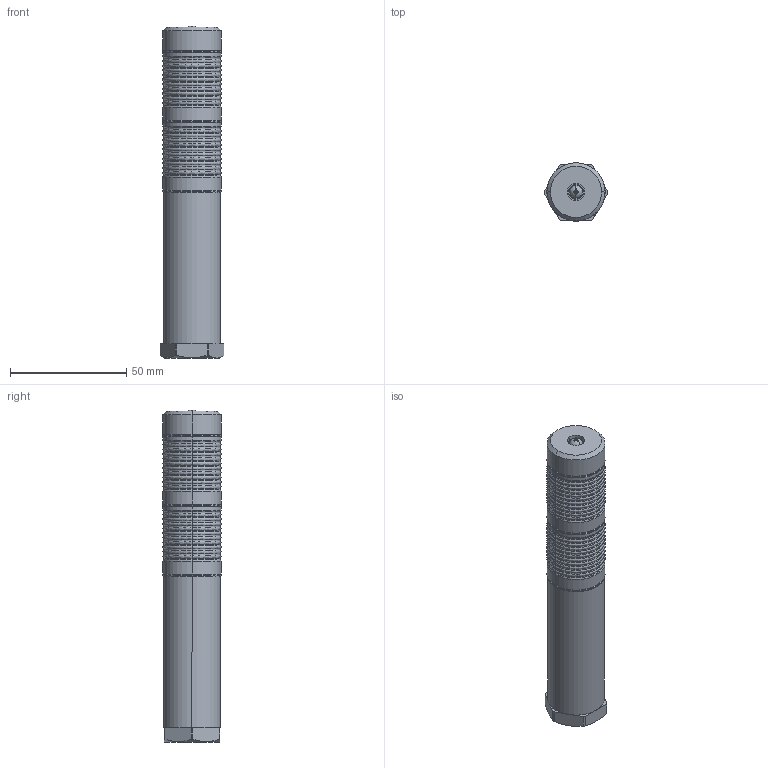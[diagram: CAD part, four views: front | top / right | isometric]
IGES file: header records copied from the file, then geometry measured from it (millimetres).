
Start section: IGES file generated by C3D Converter 1.6 translator by C3D Labs., translator version IGESOUT-5.1.
Global section: file name: HC:\Users\沓膼\OneDrive\Desktop\欙鵳醆TL25-024-RYG\TL25-024-RG.igs; preprocessor: 1.0; author: 沓膼,7; organization: Hunknown; date: -17760624:194605; units: millimetre
Bounding box: 27.3 x 25 x 142.72 mm (x, y, z)
Volume: 46068.4 mm3; surface area: 23104.1 mm2
Topology: 10 solids, 10 shells, 191 faces, 408 edges, 234 vertices
Faces by surface type: revolution 148, bspline 43
